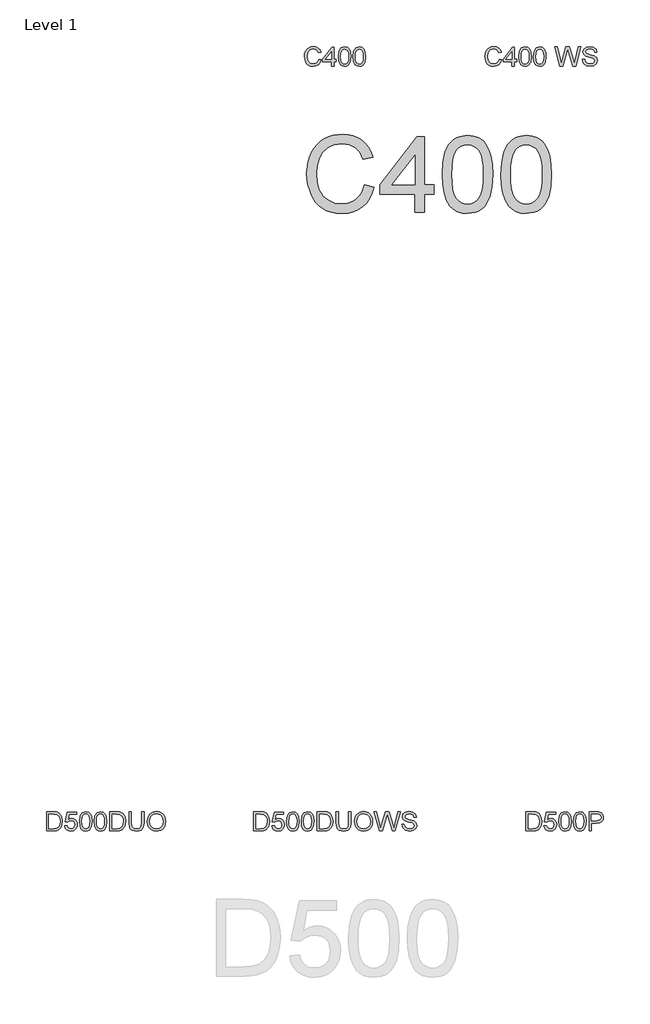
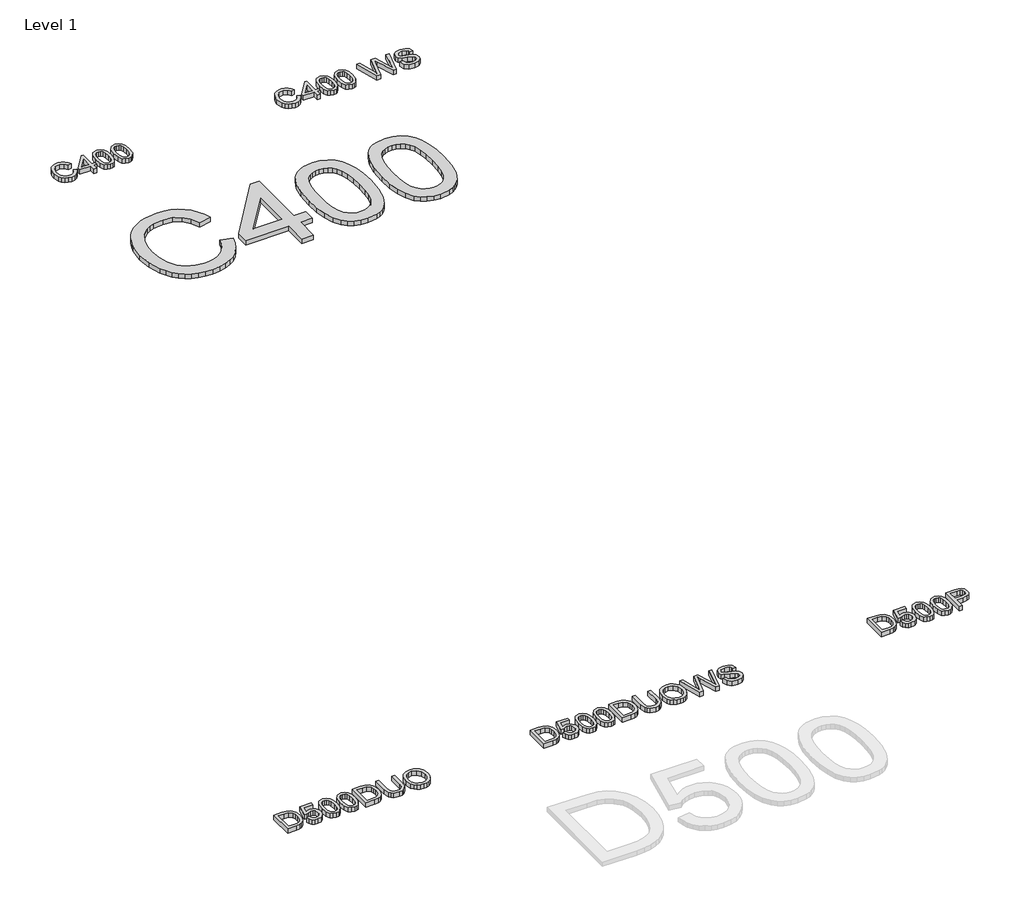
# One storey, part 2 of 5: 6 proxies.
"""IFC4 building model written with IfcOpenShell, lengths in millimetres."""

from ifc_helpers import new_model, si_unit, origin, origin_with_axes, place, context, project, spatial, polyline, outline, extrude, element, save

model = new_model("IFC4")

# Units and contexts
model_context = context("Model", 3, world=origin())
ifc_project = project(units=[si_unit("LENGTHUNIT", "METRE", prefix="MILLI")], contexts=[model_context])

# Site, building, storey
site = spatial("IfcSite", under=ifc_project)
building = spatial("IfcBuilding", under=site)
storey = spatial("IfcBuildingStorey", under=building, Name="Level 1", Elevation=0.0)

# Proxies
placement = place(None, origin())
element("IfcBuildingElementProxy", 1, Name="100mm Arial", ObjectType="100mm Arial", at=placement, inside=storey, context=model_context, shape_type="SweptSolid", body=[
    extrude(outline(polyline([(-4393.4570296, -3882.5422782), (-4380.8999909, -3885.7796398), (-4386.6941323, -3900.4121461), (-4395.7869489, -3911.1021838), (-4407.730851, -3917.6412862), (-4422.0782489, -3919.820987), (-4436.6433102, -3918.1716494), (-4448.2101332, -3913.2236366), (-4457.0760893, -3905.1486268), (-4463.5385497, -3894.1182983), (-4468.7992622, -3867.2629127), (-4467.3124058, -3852.6150779), (-4462.8518367, -3839.9660686), (-4455.6505466, -3829.7174894), (-4445.9415276, -3822.2709446), (-4434.4268212, -3817.7367991), (-4421.8084687, -3816.2254172), (-4408.0404851, -3818.1813231), (-4396.657603, -3824.049041), (-4388.0154418, -3833.46682), (-4382.4696207, -3846.0729097), (-4395.0266595, -3849.0650166), (-4405.3273553, -3833.6262356), (-4422.2989781, -3828.782456), (-4441.9438766, -3834.1535331), (-4453.0416501, -3848.5745073), (-4456.2422235, -3867.2383872), (-4452.4530389, -3888.8698485), (-4440.6562896, -3902.6899488), (-4423.3290476, -3907.2639483), (-4412.8474765, -3905.7065812), (-4404.1133448, -3901.0344798), (-4397.51906, -3893.2966952), (-4393.4570296, -3882.5422782)])), origin_with_axes(), (0.0, 0.0, 1.0), 20.0),
    extrude(outline(polyline([(-4327.5325761, -3918.2513572), (-4327.5325761, -3894.7069095), (-4373.0518416, -3894.7069095), (-4373.0518416, -3882.1498707), (-4324.3933164, -3819.3646769), (-4314.9755373, -3819.3646769), (-4314.9755373, -3882.1498707), (-4302.4184986, -3882.1498707), (-4302.4184986, -3894.7069095), (-4314.9755373, -3894.7069095), (-4314.9755373, -3918.2513572), (-4327.5325761, -3918.2513572)]), holes=[polyline([(-4327.5325761, -3882.1498707), (-4327.5325761, -3843.350583), (-4357.6007978, -3882.1498707), (-4327.5325761, -3882.1498707)])]), origin_with_axes(), (0.0, 0.0, 1.0), 20.0),
    extrude(outline(polyline([(-4291.4310896, -3868.8325425), (-4287.740007, -3839.9292804), (-4276.7771235, -3823.264226), (-4258.4688629, -3817.795047), (-4243.802634, -3821.0324086), (-4233.6736164, -3830.3643485), (-4227.7875045, -3845.2267811), (-4225.5066361, -3868.8325425), (-4229.1609306, -3897.6131773), (-4240.0870258, -3914.3150198), (-4248.3183855, -3918.4444952), (-4258.4688629, -3919.820987), (-4271.516411, -3917.4297541), (-4281.4246994, -3910.2560552), (-4288.9294921, -3893.2660384), (-4291.4310896, -3868.8325425)]), holes=[polyline([(-4278.8740509, -3868.808017), (-4277.4025229, -3888.5602145), (-4272.9879389, -3899.9921475), (-4266.415114, -3905.4459981), (-4258.4688629, -3907.2639483), (-4250.5226118, -3905.4398667), (-4243.9497868, -3899.967622), (-4239.5352029, -3888.5295577), (-4238.0636749, -3868.808017), (-4239.4861519, -3849.5003437), (-4243.7535831, -3837.9795058), (-4250.3141453, -3832.2589408), (-4258.6160157, -3830.3520858), (-4266.4764276, -3832.0320803), (-4272.7917352, -3837.0720636), (-4277.353472, -3849.3102713), (-4278.8740509, -3868.808017)])]), origin_with_axes(), (0.0, 0.0, 1.0), 20.0),
    extrude(outline(polyline([(-4214.5192272, -3868.8325425), (-4210.8281445, -3839.9292804), (-4199.865261, -3823.264226), (-4181.5570004, -3817.795047), (-4166.8907715, -3821.0324086), (-4156.7617539, -3830.3643485), (-4150.875642, -3845.2267811), (-4148.5947736, -3868.8325425), (-4152.2490681, -3897.6131773), (-4163.1751634, -3914.3150198), (-4171.406523, -3918.4444952), (-4181.5570004, -3919.820987), (-4194.6045485, -3917.4297541), (-4204.5128369, -3910.2560552), (-4212.0176296, -3893.2660384), (-4214.5192272, -3868.8325425)]), holes=[polyline([(-4201.9621884, -3868.808017), (-4200.4906604, -3888.5602145), (-4196.0760765, -3899.9921475), (-4189.5032515, -3905.4459981), (-4181.5570004, -3907.2639483), (-4173.6107493, -3905.4398667), (-4167.0379243, -3899.967622), (-4162.6233404, -3888.5295577), (-4161.1518124, -3868.808017), (-4162.5742895, -3849.5003437), (-4166.8417206, -3837.9795058), (-4173.4022829, -3832.2589408), (-4181.7041532, -3830.3520858), (-4189.5645652, -3832.0320803), (-4195.8798728, -3837.0720636), (-4200.4416095, -3849.3102713), (-4201.9621884, -3868.808017)])]), origin_with_axes(), (0.0, 0.0, 1.0), 20.0),
])
element("IfcBuildingElementProxy", 2, Name="100mm Arial", ObjectType="100mm Arial", at=placement, inside=storey, context=model_context, shape_type="SweptSolid", body=[
    extrude(outline(polyline([(-4734.8515212, -7918.2513572), (-4734.8515212, -7817.795047), (-4700.1970372, -7817.795047), (-4682.2689213, -7819.2420496), (-4667.5045906, -7826.4280112), (-4655.6097394, -7843.5958376), (-4651.6611393, -7867.4836419), (-4654.3344151, -7887.7539398), (-4661.2015457, -7902.3833805), (-4670.3740701, -7911.4945912), (-4682.3792859, -7916.5345745), (-4698.5293055, -7918.2513572), (-4734.8515212, -7918.2513572)]), holes=[polyline([(-4722.2944824, -7905.6943184), (-4700.0744099, -7905.6943184), (-4683.9121276, -7903.8794339), (-4674.5924503, -7898.7536114), (-4666.9527676, -7886.2824118), (-4664.2181781, -7867.2874381), (-4665.5578817, -7853.6022279), (-4669.5769925, -7843.4977358), (-4682.6122778, -7832.3631741), (-4700.4177664, -7830.3520858), (-4722.2944824, -7830.3520858), (-4722.2944824, -7905.6943184)])]), origin_with_axes(), (0.0, 0.0, 1.0), 20.0),
    extrude(outline(polyline([(-4639.1041005, -7891.5676498), (-4626.5470618, -7889.99802), (-4620.2194915, -7902.9352035), (-4607.098367, -7907.2639483), (-4598.0975208, -7905.7586978), (-4591.3530176, -7901.2429463), (-4587.1407687, -7894.23786), (-4585.7366858, -7885.264605), (-4590.9973983, -7870.3531214), (-4597.6039458, -7866.2512372), (-4606.9021632, -7864.8839424), (-4617.9263604, -7867.0667089), (-4624.9774319, -7872.7320917), (-4637.5344707, -7871.1624618), (-4626.5470618, -7819.3646769), (-4577.8885365, -7819.3646769), (-4577.8885365, -7831.9217157), (-4616.3935187, -7831.9217157), (-4621.7645958, -7859.5864417), (-4612.7944065, -7854.1417882), (-4603.3950215, -7852.3269037), (-4591.6626516, -7854.5771152), (-4581.9229758, -7861.3277498), (-4575.3654792, -7871.6161829), (-4573.179647, -7884.47979), (-4575.1478157, -7897.0368288), (-4581.0523217, -7907.7789831), (-4592.3585617, -7916.810486), (-4607.1474179, -7919.820987), (-4619.4806618, -7917.8865409), (-4629.3061767, -7912.0832024), (-4636.0414829, -7903.0854219), (-4639.1041005, -7891.5676498)])), origin_with_axes(), (0.0, 0.0, 1.0), 20.0),
    extrude(outline(polyline([(-4562.1922381, -7868.8325425), (-4558.5011554, -7839.9292804), (-4547.5382719, -7823.264226), (-4529.2300113, -7817.795047), (-4514.5637824, -7821.0324086), (-4504.4347648, -7830.3643485), (-4498.5486529, -7845.2267811), (-4496.2677846, -7868.8325425), (-4499.922079, -7897.6131773), (-4510.8481743, -7914.3150198), (-4519.0795339, -7918.4444952), (-4529.2300113, -7919.820987), (-4542.2775594, -7917.4297541), (-4552.1858478, -7910.2560552), (-4559.6906405, -7893.2660384), (-4562.1922381, -7868.8325425)]), holes=[polyline([(-4549.6351993, -7868.808017), (-4548.1636713, -7888.5602145), (-4543.7490874, -7899.9921475), (-4537.1762624, -7905.4459981), (-4529.2300113, -7907.2639483), (-4521.2837602, -7905.4398667), (-4514.7109352, -7899.967622), (-4510.2963513, -7888.5295577), (-4508.8248233, -7868.808017), (-4510.2473004, -7849.5003437), (-4514.5147315, -7837.9795058), (-4521.0752938, -7832.2589408), (-4529.3771641, -7830.3520858), (-4537.2375761, -7832.0320803), (-4543.5528837, -7837.0720636), (-4548.1146204, -7849.3102713), (-4549.6351993, -7868.808017)])]), origin_with_axes(), (0.0, 0.0, 1.0), 20.0),
    extrude(outline(polyline([(-4485.2803756, -7868.8325425), (-4481.5892929, -7839.9292804), (-4470.6264095, -7823.264226), (-4452.3181489, -7817.795047), (-4437.65192, -7821.0324086), (-4427.5229024, -7830.3643485), (-4421.6367905, -7845.2267811), (-4419.3559221, -7868.8325425), (-4423.0102166, -7897.6131773), (-4433.9363118, -7914.3150198), (-4442.1676715, -7918.4444952), (-4452.3181489, -7919.820987), (-4465.365697, -7917.4297541), (-4475.2739854, -7910.2560552), (-4482.7787781, -7893.2660384), (-4485.2803756, -7868.8325425)]), holes=[polyline([(-4472.7233369, -7868.808017), (-4471.2518089, -7888.5602145), (-4466.8372249, -7899.9921475), (-4460.2644, -7905.4459981), (-4452.3181489, -7907.2639483), (-4444.3718978, -7905.4398667), (-4437.7990728, -7899.967622), (-4433.3844888, -7888.5295577), (-4431.9129609, -7868.808017), (-4433.3354379, -7849.5003437), (-4437.6028691, -7837.9795058), (-4444.1634313, -7832.2589408), (-4452.4653017, -7830.3520858), (-4460.3257136, -7832.0320803), (-4466.6410212, -7837.0720636), (-4471.2027579, -7849.3102713), (-4472.7233369, -7868.808017)])]), origin_with_axes(), (0.0, 0.0, 1.0), 20.0),
    extrude(outline(polyline([(-4403.6596236, -7918.2513572), (-4403.6596236, -7817.795047), (-4369.0051397, -7817.795047), (-4351.0770238, -7819.2420496), (-4336.312693, -7826.4280112), (-4324.4178419, -7843.5958376), (-4320.4692418, -7867.4836419), (-4323.1425176, -7887.7539398), (-4330.0096482, -7902.3833805), (-4339.1821726, -7911.4945912), (-4351.1873884, -7916.5345745), (-4367.337408, -7918.2513572), (-4403.6596236, -7918.2513572)]), holes=[polyline([(-4391.1025849, -7905.6943184), (-4368.8825124, -7905.6943184), (-4352.72023, -7903.8794339), (-4343.4005528, -7898.7536114), (-4335.7608701, -7886.2824118), (-4333.0262806, -7867.2874381), (-4334.3659842, -7853.6022279), (-4338.385095, -7843.4977358), (-4351.4203803, -7832.3631741), (-4369.2258689, -7830.3520858), (-4391.1025849, -7830.3520858), (-4391.1025849, -7905.6943184)])]), origin_with_axes(), (0.0, 0.0, 1.0), 20.0),
    extrude(outline(polyline([(-4237.2788599, -7817.795047), (-4224.7218212, -7817.795047), (-4224.7218212, -7875.748724), (-4228.130861, -7899.7714183), (-4240.4181196, -7914.2414434), (-4250.6820273, -7918.4261011), (-4263.7173127, -7919.820987), (-4286.6608864, -7914.9649447), (-4294.3005692, -7909.0205848), (-4299.3896035, -7900.8995898), (-4303.2033135, -7875.748724), (-4303.2033135, -7817.795047), (-4290.6462747, -7817.795047), (-4290.6462747, -7875.3072656), (-4288.1692026, -7894.4493921), (-4279.6588658, -7903.9284848), (-4264.8945351, -7907.2639483), (-4252.1228985, -7905.6146107), (-4243.6309557, -7900.6665978), (-4238.8668839, -7891.0280895), (-4237.2788599, -7875.3072656), (-4237.2788599, -7817.795047)])), origin_with_axes(), (0.0, 0.0, 1.0), 20.0),
    extrude(outline(polyline([(-4207.4558929, -7869.3475773), (-4204.1081667, -7847.1336362), (-4194.0649882, -7830.3275603), (-4178.7304404, -7819.750953), (-4159.5086062, -7816.2254172), (-4146.3322994, -7817.8808862), (-4134.517156, -7822.8472931), (-4124.7069694, -7830.7751501), (-4117.5455333, -7841.3149693), (-4113.1677375, -7853.9578472), (-4111.7084723, -7868.1948804), (-4113.2443796, -7882.621986), (-4117.8521016, -7895.4426735), (-4125.2771865, -7906.0008868), (-4135.2651827, -7913.6405695), (-4146.9791585, -7918.2758827), (-4159.5821826, -7919.820987), (-4172.9608245, -7918.1134014), (-4184.8434129, -7912.9906447), (-4194.629074, -7904.9156349), (-4201.7169337, -7894.3512902), (-4207.4558929, -7869.3475773)]), holes=[polyline([(-4194.8988541, -7869.4702046), (-4192.3880595, -7885.1848972), (-4184.8556756, -7897.1594561), (-4173.5341072, -7904.7378252), (-4159.655759, -7907.2639483), (-4145.5750756, -7904.7132998), (-4134.2351131, -7897.0613543), (-4126.7579115, -7884.7189133), (-4124.265511, -7868.0967785), (-4128.5329422, -7847.3727595), (-4141.0041418, -7833.650761), (-4159.4350298, -7828.782456), (-4172.9424304, -7831.1277037), (-4184.42648, -7838.1634468), (-4192.2807606, -7850.6806317), (-4194.8988541, -7869.4702046)])]), origin_with_axes(), (0.0, 0.0, 1.0), 20.0),
    extrude(outline(polyline([(-4076.4653771, -7918.2513572), (-4103.860323, -7817.795047), (-4090.9108768, -7817.795047), (-4075.0183746, -7883.8176024), (-4070.1132813, -7904.198265), (-4064.8648315, -7886.1720472), (-4044.9501529, -7817.795047), (-4026.286273, -7817.795047), (-4011.8162478, -7867.3610145), (-4001.0495681, -7904.198265), (-3996.2916276, -7884.4062136), (-3980.2519727, -7817.795047), (-3967.3025264, -7817.795047), (-3994.7219978, -7918.2513572), (-4008.1374279, -7918.2513572), (-4032.2214358, -7840.7508835), (-4035.5814247, -7829.9351529), (-4039.3583465, -7842.9581755), (-4061.3086389, -7918.2513572), (-4076.4653771, -7918.2513572)])), origin_with_axes(), (0.0, 0.0, 1.0), 20.0),
    extrude(outline(polyline([(-3959.4543772, -7883.7195006), (-3946.8973384, -7883.7195006), (-3942.8506365, -7896.2888021), (-3932.9668735, -7904.2350532), (-3917.9082372, -7907.2639483), (-3904.7871127, -7904.9708172), (-3896.3135641, -7898.6677723), (-3893.5299237, -7890.2432746), (-3895.6145883, -7882.4073881), (-3904.1494506, -7876.7052172), (-3922.4331857, -7871.9104885), (-3942.1148725, -7865.7178083), (-3952.7957131, -7856.3736056), (-3956.3151175, -7843.8901432), (-3951.9618472, -7829.6776355), (-3939.2453929, -7819.6467198), (-3920.630564, -7816.2254172), (-3900.7649362, -7819.8061353), (-3887.5211844, -7830.3275603), (-3882.5425147, -7846.0483843), (-3895.0995535, -7846.0483843), (-3897.4049473, -7838.5558543), (-3902.2119387, -7833.147989), (-3920.1400546, -7828.782456), (-3938.1172215, -7833.098938), (-3943.7580787, -7843.5222612), (-3939.7604277, -7852.2288018), (-3919.2571379, -7859.2430852), (-3897.0370653, -7865.54613), (-3884.8846968, -7875.7241985), (-3880.9728849, -7889.9244436), (-3885.473308, -7904.9462917), (-3898.4227542, -7915.9091752), (-3917.4177279, -7919.820987), (-3939.8462668, -7915.6026068), (-3954.0342491, -7902.8984153), (-3959.4543772, -7883.7195006)])), origin_with_axes(), (0.0, 0.0, 1.0), 20.0),
])
element("IfcBuildingElementProxy", 3, Name="100mm Arial", ObjectType="100mm Arial", at=placement, inside=storey, context=model_context, shape_type="SweptSolid", body=[
    extrude(outline(polyline([(-5818.6989125, -7918.2513572), (-5818.6989125, -7817.795047), (-5784.0444286, -7817.795047), (-5766.1163127, -7819.2420496), (-5751.351982, -7826.4280112), (-5739.4571308, -7843.5958376), (-5735.5085307, -7867.4836419), (-5738.1818065, -7887.7539398), (-5745.0489371, -7902.3833805), (-5754.2214615, -7911.4945912), (-5766.2266773, -7916.5345745), (-5782.3766969, -7918.2513572), (-5818.6989125, -7918.2513572)]), holes=[polyline([(-5806.1418738, -7905.6943184), (-5783.9218013, -7905.6943184), (-5767.7595189, -7903.8794339), (-5758.4398417, -7898.7536114), (-5750.800159, -7886.2824118), (-5748.0655695, -7867.2874381), (-5749.4052731, -7853.6022279), (-5753.4243839, -7843.4977358), (-5766.4596692, -7832.3631741), (-5784.2651578, -7830.3520858), (-5806.1418738, -7830.3520858), (-5806.1418738, -7905.6943184)])]), origin_with_axes(), (0.0, 0.0, 1.0), 20.0),
    extrude(outline(polyline([(-5722.9514919, -7891.5676498), (-5710.3944532, -7889.99802), (-5704.0668829, -7902.9352035), (-5690.9457584, -7907.2639483), (-5681.9449122, -7905.7586978), (-5675.200409, -7901.2429463), (-5670.9881601, -7894.23786), (-5669.5840772, -7885.264605), (-5674.8447897, -7870.3531214), (-5681.4513372, -7866.2512372), (-5690.7495546, -7864.8839424), (-5701.7737517, -7867.0667089), (-5708.8248233, -7872.7320917), (-5721.3818621, -7871.1624618), (-5710.3944532, -7819.3646769), (-5661.7359279, -7819.3646769), (-5661.7359279, -7831.9217157), (-5700.2409101, -7831.9217157), (-5705.6119872, -7859.5864417), (-5696.6417979, -7854.1417882), (-5687.2424129, -7852.3269037), (-5675.510043, -7854.5771152), (-5665.7703672, -7861.3277498), (-5659.2128706, -7871.6161829), (-5657.0270384, -7884.47979), (-5658.9952071, -7897.0368288), (-5664.8997131, -7907.7789831), (-5676.2059531, -7916.810486), (-5690.9948093, -7919.820987), (-5703.3280532, -7917.8865409), (-5713.1535681, -7912.0832024), (-5719.8888743, -7903.0854219), (-5722.9514919, -7891.5676498)])), origin_with_axes(), (0.0, 0.0, 1.0), 20.0),
    extrude(outline(polyline([(-5646.0396295, -7868.8325425), (-5642.3485468, -7839.9292804), (-5631.3856633, -7823.264226), (-5613.0774027, -7817.795047), (-5598.4111738, -7821.0324086), (-5588.2821562, -7830.3643485), (-5582.3960443, -7845.2267811), (-5580.1151759, -7868.8325425), (-5583.7694704, -7897.6131773), (-5594.6955657, -7914.3150198), (-5602.9269253, -7918.4444952), (-5613.0774027, -7919.820987), (-5626.1249508, -7917.4297541), (-5636.0332392, -7910.2560552), (-5643.5380319, -7893.2660384), (-5646.0396295, -7868.8325425)]), holes=[polyline([(-5633.4825907, -7868.808017), (-5632.0110627, -7888.5602145), (-5627.5964788, -7899.9921475), (-5621.0236538, -7905.4459981), (-5613.0774027, -7907.2639483), (-5605.1311516, -7905.4398667), (-5598.5583266, -7899.967622), (-5594.1437427, -7888.5295577), (-5592.6722147, -7868.808017), (-5594.0946918, -7849.5003437), (-5598.3621229, -7837.9795058), (-5604.9226851, -7832.2589408), (-5613.2245555, -7830.3520858), (-5621.0849675, -7832.0320803), (-5627.4002751, -7837.0720636), (-5631.9620118, -7849.3102713), (-5633.4825907, -7868.808017)])]), origin_with_axes(), (0.0, 0.0, 1.0), 20.0),
    extrude(outline(polyline([(-5569.127767, -7868.8325425), (-5565.4366843, -7839.9292804), (-5554.4738009, -7823.264226), (-5536.1655403, -7817.795047), (-5521.4993114, -7821.0324086), (-5511.3702938, -7830.3643485), (-5505.4841819, -7845.2267811), (-5503.2033135, -7868.8325425), (-5506.857608, -7897.6131773), (-5517.7837032, -7914.3150198), (-5526.0150629, -7918.4444952), (-5536.1655403, -7919.820987), (-5549.2130883, -7917.4297541), (-5559.1213768, -7910.2560552), (-5566.6261695, -7893.2660384), (-5569.127767, -7868.8325425)]), holes=[polyline([(-5556.5707283, -7868.808017), (-5555.0992003, -7888.5602145), (-5550.6846163, -7899.9921475), (-5544.1117913, -7905.4459981), (-5536.1655403, -7907.2639483), (-5528.2192892, -7905.4398667), (-5521.6464642, -7899.967622), (-5517.2318802, -7888.5295577), (-5515.7603523, -7868.808017), (-5517.1828293, -7849.5003437), (-5521.4502604, -7837.9795058), (-5528.0108227, -7832.2589408), (-5536.312693, -7830.3520858), (-5544.173105, -7832.0320803), (-5550.4884126, -7837.0720636), (-5555.0501493, -7849.3102713), (-5556.5707283, -7868.808017)])]), origin_with_axes(), (0.0, 0.0, 1.0), 20.0),
    extrude(outline(polyline([(-5487.507015, -7918.2513572), (-5487.507015, -7817.795047), (-5452.8525311, -7817.795047), (-5434.9244152, -7819.2420496), (-5420.1600844, -7826.4280112), (-5408.2652333, -7843.5958376), (-5404.3166332, -7867.4836419), (-5406.989909, -7887.7539398), (-5413.8570396, -7902.3833805), (-5423.029564, -7911.4945912), (-5435.0347798, -7916.5345745), (-5451.1847994, -7918.2513572), (-5487.507015, -7918.2513572)]), holes=[polyline([(-5474.9499763, -7905.6943184), (-5452.7299037, -7905.6943184), (-5436.5676214, -7903.8794339), (-5427.2479442, -7898.7536114), (-5419.6082614, -7886.2824118), (-5416.8736719, -7867.2874381), (-5418.2133755, -7853.6022279), (-5422.2324863, -7843.4977358), (-5435.2677717, -7832.3631741), (-5453.0732603, -7830.3520858), (-5474.9499763, -7830.3520858), (-5474.9499763, -7905.6943184)])]), origin_with_axes(), (0.0, 0.0, 1.0), 20.0),
    extrude(outline(polyline([(-5321.1262513, -7817.795047), (-5308.5692126, -7817.795047), (-5308.5692126, -7875.748724), (-5311.9782524, -7899.7714183), (-5324.265511, -7914.2414434), (-5334.5294187, -7918.4261011), (-5347.5647041, -7919.820987), (-5370.5082778, -7914.9649447), (-5378.1479606, -7909.0205848), (-5383.2369949, -7900.8995898), (-5387.0507049, -7875.748724), (-5387.0507049, -7817.795047), (-5374.4936661, -7817.795047), (-5374.4936661, -7875.3072656), (-5372.016594, -7894.4493921), (-5363.5062572, -7903.9284848), (-5348.7419264, -7907.2639483), (-5335.9702898, -7905.6146107), (-5327.4783471, -7900.6665978), (-5322.7142753, -7891.0280895), (-5321.1262513, -7875.3072656), (-5321.1262513, -7817.795047)])), origin_with_axes(), (0.0, 0.0, 1.0), 20.0),
    extrude(outline(polyline([(-5291.3032843, -7869.3475773), (-5287.9555581, -7847.1336362), (-5277.9123796, -7830.3275603), (-5262.5778318, -7819.750953), (-5243.3559976, -7816.2254172), (-5230.1796908, -7817.8808862), (-5218.3645474, -7822.8472931), (-5208.5543608, -7830.7751501), (-5201.3929246, -7841.3149693), (-5197.0151289, -7853.9578472), (-5195.5558637, -7868.1948804), (-5197.091771, -7882.621986), (-5201.699493, -7895.4426735), (-5209.1245779, -7906.0008868), (-5219.1125741, -7913.6405695), (-5230.8265499, -7918.2758827), (-5243.429574, -7919.820987), (-5256.8082158, -7918.1134014), (-5268.6908043, -7912.9906447), (-5278.4764654, -7904.9156349), (-5285.5643251, -7894.3512902), (-5291.3032843, -7869.3475773)]), holes=[polyline([(-5278.7462455, -7869.4702046), (-5276.2354509, -7885.1848972), (-5268.703067, -7897.1594561), (-5257.3814986, -7904.7378252), (-5243.5031504, -7907.2639483), (-5229.422467, -7904.7132998), (-5218.0825045, -7897.0613543), (-5210.6053029, -7884.7189133), (-5208.1129024, -7868.0967785), (-5212.3803336, -7847.3727595), (-5224.8515332, -7833.650761), (-5243.2824212, -7828.782456), (-5256.7898217, -7831.1277037), (-5268.2738714, -7838.1634468), (-5276.128152, -7850.6806317), (-5278.7462455, -7869.4702046)])]), origin_with_axes(), (0.0, 0.0, 1.0), 20.0),
])
element("IfcBuildingElementProxy", 4, Name="100mm Arial", ObjectType="100mm Arial", at=placement, inside=storey, context=model_context, shape_type="SweptSolid", body=[
    extrude(outline(polyline([(-3310.3944532, -7918.2513572), (-3310.3944532, -7817.795047), (-3275.7399692, -7817.795047), (-3257.8118533, -7819.2420496), (-3243.0475226, -7826.4280112), (-3231.1526714, -7843.5958376), (-3227.2040713, -7867.4836419), (-3229.8773472, -7887.7539398), (-3236.7444777, -7902.3833805), (-3245.9170021, -7911.4945912), (-3257.9222179, -7916.5345745), (-3274.0722375, -7918.2513572), (-3310.3944532, -7918.2513572)]), holes=[polyline([(-3297.8374144, -7905.6943184), (-3275.6173419, -7905.6943184), (-3259.4550596, -7903.8794339), (-3250.1353824, -7898.7536114), (-3242.4956996, -7886.2824118), (-3239.7611101, -7867.2874381), (-3241.1008137, -7853.6022279), (-3245.1199245, -7843.4977358), (-3258.1552099, -7832.3631741), (-3275.9606984, -7830.3520858), (-3297.8374144, -7830.3520858), (-3297.8374144, -7905.6943184)])]), origin_with_axes(), (0.0, 0.0, 1.0), 20.0),
    extrude(outline(polyline([(-3214.6470326, -7891.5676498), (-3202.0899938, -7889.99802), (-3195.7624235, -7902.9352035), (-3182.641299, -7907.2639483), (-3173.6404528, -7905.7586978), (-3166.8959496, -7901.2429463), (-3162.6837007, -7894.23786), (-3161.2796178, -7885.264605), (-3166.5403303, -7870.3531214), (-3173.1468778, -7866.2512372), (-3182.4450952, -7864.8839424), (-3193.4692924, -7867.0667089), (-3200.5203639, -7872.7320917), (-3213.0774027, -7871.1624618), (-3202.0899938, -7819.3646769), (-3153.4314686, -7819.3646769), (-3153.4314686, -7831.9217157), (-3191.9364507, -7831.9217157), (-3197.3075278, -7859.5864417), (-3188.3373385, -7854.1417882), (-3178.9379536, -7852.3269037), (-3167.2055836, -7854.5771152), (-3157.4659078, -7861.3277498), (-3150.9084112, -7871.6161829), (-3148.722579, -7884.47979), (-3150.6907477, -7897.0368288), (-3156.5952537, -7907.7789831), (-3167.9014937, -7916.810486), (-3182.6903499, -7919.820987), (-3195.0235938, -7917.8865409), (-3204.8491088, -7912.0832024), (-3211.5844149, -7903.0854219), (-3214.6470326, -7891.5676498)])), origin_with_axes(), (0.0, 0.0, 1.0), 20.0),
    extrude(outline(polyline([(-3137.7351701, -7868.8325425), (-3134.0440874, -7839.9292804), (-3123.081204, -7823.264226), (-3104.7729433, -7817.795047), (-3090.1067145, -7821.0324086), (-3079.9776969, -7830.3643485), (-3074.0915849, -7845.2267811), (-3071.8107166, -7868.8325425), (-3075.465011, -7897.6131773), (-3086.3911063, -7914.3150198), (-3094.6224659, -7918.4444952), (-3104.7729433, -7919.820987), (-3117.8204914, -7917.4297541), (-3127.7287798, -7910.2560552), (-3135.2335725, -7893.2660384), (-3137.7351701, -7868.8325425)]), holes=[polyline([(-3125.1781313, -7868.808017), (-3123.7066033, -7888.5602145), (-3119.2920194, -7899.9921475), (-3112.7191944, -7905.4459981), (-3104.7729433, -7907.2639483), (-3096.8266922, -7905.4398667), (-3090.2538673, -7899.967622), (-3085.8392833, -7888.5295577), (-3084.3677553, -7868.808017), (-3085.7902324, -7849.5003437), (-3090.0576635, -7837.9795058), (-3096.6182258, -7832.2589408), (-3104.9200961, -7830.3520858), (-3112.7805081, -7832.0320803), (-3119.0958157, -7837.0720636), (-3123.6575524, -7849.3102713), (-3125.1781313, -7868.808017)])]), origin_with_axes(), (0.0, 0.0, 1.0), 20.0),
    extrude(outline(polyline([(-3060.8233076, -7868.8325425), (-3057.132225, -7839.9292804), (-3046.1693415, -7823.264226), (-3027.8610809, -7817.795047), (-3013.194852, -7821.0324086), (-3003.0658344, -7830.3643485), (-2997.1797225, -7845.2267811), (-2994.8988541, -7868.8325425), (-2998.5531486, -7897.6131773), (-3009.4792438, -7914.3150198), (-3017.7106035, -7918.4444952), (-3027.8610809, -7919.820987), (-3040.908629, -7917.4297541), (-3050.8169174, -7910.2560552), (-3058.3217101, -7893.2660384), (-3060.8233076, -7868.8325425)]), holes=[polyline([(-3048.2662689, -7868.808017), (-3046.7947409, -7888.5602145), (-3042.3801569, -7899.9921475), (-3035.807332, -7905.4459981), (-3027.8610809, -7907.2639483), (-3019.9148298, -7905.4398667), (-3013.3420048, -7899.967622), (-3008.9274209, -7888.5295577), (-3007.4558929, -7868.808017), (-3008.8783699, -7849.5003437), (-3013.1458011, -7837.9795058), (-3019.7063633, -7832.2589408), (-3028.0082337, -7830.3520858), (-3035.8686456, -7832.0320803), (-3042.1839532, -7837.0720636), (-3046.74569, -7849.3102713), (-3048.2662689, -7868.808017)])]), origin_with_axes(), (0.0, 0.0, 1.0), 20.0),
    extrude(outline(polyline([(-2979.2025556, -7918.2513572), (-2979.2025556, -7817.795047), (-2941.9728977, -7817.795047), (-2926.9633123, -7818.7515402), (-2914.7618928, -7823.448167), (-2906.8524299, -7833.1602517), (-2903.860323, -7846.8577247), (-2905.8806083, -7858.6973935), (-2911.9414642, -7868.5627624), (-2923.2752953, -7875.2214265), (-2941.1145064, -7877.4409812), (-2966.6455169, -7877.4409812), (-2966.6455169, -7918.2513572), (-2979.2025556, -7918.2513572)]), holes=[polyline([(-2966.6455169, -7864.8839424), (-2940.3787424, -7864.8839424), (-2921.8865408, -7860.2731548), (-2917.7846565, -7854.724268), (-2916.4173618, -7847.2991831), (-2919.6424606, -7836.9003853), (-2928.1160092, -7831.2104771), (-2940.673048, -7830.3520858), (-2966.6455169, -7830.3520858), (-2966.6455169, -7864.8839424)])]), origin_with_axes(), (0.0, 0.0, 1.0), 20.0),
])
element("IfcBuildingElementProxy", 5, Name="100mm Arial", ObjectType="100mm Arial", at=placement, inside=storey, context=model_context, shape_type="SweptSolid", body=[
    extrude(outline(polyline([(-3449.2300113, -3882.5422782), (-3436.6729726, -3885.7796398), (-3442.467114, -3900.4121461), (-3451.5599306, -3911.1021838), (-3463.5038327, -3917.6412862), (-3477.8512305, -3919.820987), (-3492.4162919, -3918.1716494), (-3503.9831149, -3913.2236366), (-3512.849071, -3905.1486268), (-3519.3115314, -3894.1182983), (-3524.5722439, -3867.2629127), (-3523.0853875, -3852.6150779), (-3518.6248183, -3839.9660686), (-3511.4235283, -3829.7174894), (-3501.7145093, -3822.2709446), (-3490.1998028, -3817.7367991), (-3477.5814504, -3816.2254172), (-3463.8134667, -3818.1813231), (-3452.4305847, -3824.049041), (-3443.7884235, -3833.46682), (-3438.2426024, -3846.0729097), (-3450.7996412, -3849.0650166), (-3461.100337, -3833.6262356), (-3478.0719597, -3828.782456), (-3497.7168583, -3834.1535331), (-3508.8146318, -3848.5745073), (-3512.0152052, -3867.2383872), (-3508.2260206, -3888.8698485), (-3496.4292713, -3902.6899488), (-3479.1020293, -3907.2639483), (-3468.6204581, -3905.7065812), (-3459.8863264, -3901.0344798), (-3453.2920417, -3893.2966952), (-3449.2300113, -3882.5422782)])), origin_with_axes(), (0.0, 0.0, 1.0), 20.0),
    extrude(outline(polyline([(-3383.3055578, -3918.2513572), (-3383.3055578, -3894.7069095), (-3428.8248233, -3894.7069095), (-3428.8248233, -3882.1498707), (-3380.1662981, -3819.3646769), (-3370.748519, -3819.3646769), (-3370.748519, -3882.1498707), (-3358.1914802, -3882.1498707), (-3358.1914802, -3894.7069095), (-3370.748519, -3894.7069095), (-3370.748519, -3918.2513572), (-3383.3055578, -3918.2513572)]), holes=[polyline([(-3383.3055578, -3882.1498707), (-3383.3055578, -3843.350583), (-3413.3737795, -3882.1498707), (-3383.3055578, -3882.1498707)])]), origin_with_axes(), (0.0, 0.0, 1.0), 20.0),
    extrude(outline(polyline([(-3347.2040713, -3868.8325425), (-3343.5129886, -3839.9292804), (-3332.5501052, -3823.264226), (-3314.2418446, -3817.795047), (-3299.5756157, -3821.0324086), (-3289.4465981, -3830.3643485), (-3283.5604862, -3845.2267811), (-3281.2796178, -3868.8325425), (-3284.9339123, -3897.6131773), (-3295.8600075, -3914.3150198), (-3304.0913672, -3918.4444952), (-3314.2418446, -3919.820987), (-3327.2893927, -3917.4297541), (-3337.1976811, -3910.2560552), (-3344.7024738, -3893.2660384), (-3347.2040713, -3868.8325425)]), holes=[polyline([(-3334.6470326, -3868.808017), (-3333.1755046, -3888.5602145), (-3328.7609206, -3899.9921475), (-3322.1880957, -3905.4459981), (-3314.2418446, -3907.2639483), (-3306.2955935, -3905.4398667), (-3299.7227685, -3899.967622), (-3295.3081845, -3888.5295577), (-3293.8366566, -3868.808017), (-3295.2591336, -3849.5003437), (-3299.5265647, -3837.9795058), (-3306.087127, -3832.2589408), (-3314.3889974, -3830.3520858), (-3322.2494093, -3832.0320803), (-3328.5647169, -3837.0720636), (-3333.1264536, -3849.3102713), (-3334.6470326, -3868.808017)])]), origin_with_axes(), (0.0, 0.0, 1.0), 20.0),
    extrude(outline(polyline([(-3270.2922089, -3868.8325425), (-3266.6011262, -3839.9292804), (-3255.6382427, -3823.264226), (-3237.3299821, -3817.795047), (-3222.6637532, -3821.0324086), (-3212.5347356, -3830.3643485), (-3206.6486237, -3845.2267811), (-3204.3677553, -3868.8325425), (-3208.0220498, -3897.6131773), (-3218.9481451, -3914.3150198), (-3227.1795047, -3918.4444952), (-3237.3299821, -3919.820987), (-3250.3775302, -3917.4297541), (-3260.2858186, -3910.2560552), (-3267.7906113, -3893.2660384), (-3270.2922089, -3868.8325425)]), holes=[polyline([(-3257.7351701, -3868.808017), (-3256.2636421, -3888.5602145), (-3251.8490582, -3899.9921475), (-3245.2762332, -3905.4459981), (-3237.3299821, -3907.2639483), (-3229.383731, -3905.4398667), (-3222.810906, -3899.967622), (-3218.3963221, -3888.5295577), (-3216.9247941, -3868.808017), (-3218.3472711, -3849.5003437), (-3222.6147023, -3837.9795058), (-3229.1752645, -3832.2589408), (-3237.4771349, -3830.3520858), (-3245.3375469, -3832.0320803), (-3251.6528544, -3837.0720636), (-3256.2145912, -3849.3102713), (-3257.7351701, -3868.808017)])]), origin_with_axes(), (0.0, 0.0, 1.0), 20.0),
    extrude(outline(polyline([(-3131.4535439, -3918.2513572), (-3158.8484898, -3817.795047), (-3145.8990436, -3817.795047), (-3130.0065414, -3883.8176024), (-3125.1014481, -3904.198265), (-3119.8529983, -3886.1720472), (-3099.9383196, -3817.795047), (-3081.2744397, -3817.795047), (-3066.8044146, -3867.3610145), (-3056.0377349, -3904.198265), (-3051.2797944, -3884.4062136), (-3035.2401394, -3817.795047), (-3022.2906932, -3817.795047), (-3049.7101646, -3918.2513572), (-3063.1255946, -3918.2513572), (-3087.2096026, -3840.7508835), (-3090.5695915, -3829.9351529), (-3094.3465133, -3842.9581755), (-3116.2968057, -3918.2513572), (-3131.4535439, -3918.2513572)])), origin_with_axes(), (0.0, 0.0, 1.0), 20.0),
    extrude(outline(polyline([(-3014.442544, -3883.7195006), (-3001.8855052, -3883.7195006), (-2997.8388032, -3896.2888021), (-2987.9550403, -3904.2350532), (-2972.896404, -3907.2639483), (-2959.7752795, -3904.9708172), (-2951.3017308, -3898.6677723), (-2948.5180904, -3890.2432746), (-2950.6027551, -3882.4073881), (-2959.1376173, -3876.7052172), (-2977.4213525, -3871.9104885), (-2997.1030392, -3865.7178083), (-3007.7838798, -3856.3736056), (-3011.3032843, -3843.8901432), (-3006.950014, -3829.6776355), (-2994.2335597, -3819.6467198), (-2975.6187307, -3816.2254172), (-2955.753103, -3819.8061353), (-2942.5093512, -3830.3275603), (-2937.5306815, -3846.0483843), (-2950.0877203, -3846.0483843), (-2952.3931141, -3838.5558543), (-2957.2001055, -3833.147989), (-2975.1282214, -3828.782456), (-2993.1053882, -3833.098938), (-2998.7462455, -3843.5222612), (-2994.7485945, -3852.2288018), (-2974.2453046, -3859.2430852), (-2952.0252321, -3865.54613), (-2939.8728635, -3875.7241985), (-2935.9610516, -3889.9244436), (-2940.4614747, -3904.9462917), (-2953.410921, -3915.9091752), (-2972.4058946, -3919.820987), (-2994.8344336, -3915.6026068), (-3009.0224159, -3902.8984153), (-3014.442544, -3883.7195006)])), origin_with_axes(), (0.0, 0.0, 1.0), 20.0),
])
element("IfcBuildingElementProxy", 6, Name="400mm Arial", ObjectType="400mm Arial", at=placement, inside=storey, context=model_context, shape_type="SweptSolid", body=[
    extrude(outline(polyline([(-4155.3038586, -4540.2197349), (-4105.0757035, -4553.1691812), (-4115.0146487, -4584.4054282), (-4128.2522692, -4611.6992066), (-4144.7885649, -4635.0505162), (-4164.6235358, -4654.4593572), (-4187.3095922, -4669.7172629), (-4212.3991442, -4680.615767), (-4239.892192, -4687.1548695), (-4269.7887355, -4689.3345703), (-4300.4179773, -4687.6852327), (-4328.0489808, -4682.7372199), (-4352.681746, -4674.4905318), (-4374.316273, -4662.9451685), (-4393.2499331, -4648.2728083), (-4409.7800974, -4630.6451294), (-4423.906766, -4610.0621317), (-4435.6299389, -4586.5238154), (-4451.4120765, -4534.6524541), (-4456.672789, -4479.1022728), (-4450.7253634, -4420.5109337), (-4443.2910815, -4394.2135024), (-4432.8830867, -4369.9148966), (-4419.734371, -4348.0167209), (-4404.0779265, -4328.9205796), (-4385.9137529, -4312.6264729), (-4365.2418505, -4299.1344008), (-4342.7642606, -4288.5547277), (-4319.1830247, -4280.9978184), (-4268.709615, -4274.9522909), (-4239.9810968, -4276.9081969), (-4213.6376803, -4282.7759147), (-4189.6793653, -4292.5554444), (-4168.106152, -4306.246786), (-4149.2736595, -4323.4881888), (-4133.5375072, -4343.9179023), (-4120.897695, -4367.5359264), (-4111.3542229, -4394.3422611), (-4161.582378, -4406.3106887), (-4178.9954591, -4369.6819047), (-4202.7851614, -4344.5555644), (-4233.2457906, -4330.0242256), (-4270.6716523, -4325.180446), (-4313.8119476, -4330.5515232), (-4332.4942216, -4337.2653696), (-4349.2512464, -4346.6647545), (-4376.1434203, -4371.827883), (-4393.6423405, -4404.3486514), (-4403.2440606, -4441.1123254), (-4406.444634, -4479.0041709), (-4402.6554494, -4525.4063533), (-4391.2878958, -4565.5300162), (-4371.9127773, -4597.8423181), (-4344.1008985, -4620.8104173), (-4310.758527, -4634.5324158), (-4274.7919306, -4639.1064152), (-4252.9550685, -4637.5490481), (-4232.8656459, -4632.8769468), (-4214.5236628, -4625.0901112), (-4197.9291191, -4614.1885414), (-4183.4744224, -4600.2212883), (-4171.55198, -4583.2374029), (-4162.1617921, -4563.2368851), (-4155.3038586, -4540.2197349)])), origin_with_axes(), (0.0, 0.0, 1.0), 20.0),
    extrude(outline(polyline([(-3891.6060444, -4683.0560509), (-3891.6060444, -4588.8782602), (-4073.6831066, -4588.8782602), (-4073.6831066, -4538.6501051), (-3879.0490057, -4287.5093297), (-3841.3778894, -4287.5093297), (-3841.3778894, -4538.6501051), (-3791.1497343, -4538.6501051), (-3791.1497343, -4588.8782602), (-3841.3778894, -4588.8782602), (-3841.3778894, -4683.0560509), (-3891.6060444, -4683.0560509)]), holes=[polyline([(-3891.6060444, -4538.6501051), (-3891.6060444, -4383.4529541), (-4011.8789314, -4538.6501051), (-3891.6060444, -4538.6501051)])]), origin_with_axes(), (0.0, 0.0, 1.0), 20.0),
    extrude(outline(polyline([(-3747.2000986, -4485.3807922), (-3743.5090159, -4421.0627567), (-3732.4357679, -4369.7677438), (-3714.090719, -4330.7109387), (-3702.2326561, -4315.4775584), (-3688.584234, -4303.1075263), (-3673.0994677, -4293.5364631), (-3655.7323719, -4286.6999893), (-3615.3511915, -4281.2308103), (-3584.400053, -4284.4681719), (-3556.686276, -4294.1802566), (-3533.5097103, -4309.9869196), (-3516.1702056, -4331.5080163), (-3503.0736066, -4358.5596057), (-3492.6257579, -4390.9577468), (-3485.7831528, -4432.0992166), (-3483.5022845, -4485.3807922), (-3487.1565789, -4549.3309457), (-3498.1194624, -4600.5033312), (-3516.3541466, -4639.5969246), (-3528.1846185, -4654.8762901), (-3541.8238434, -4667.3107015), (-3557.3270038, -4676.9461441), (-3574.749282, -4683.8286031), (-3615.3511915, -4689.3345703), (-3643.0159176, -4686.9433373), (-3667.5413839, -4679.7696384), (-3688.9275906, -4667.8134736), (-3707.1745375, -4651.0748428), (-3724.6857205, -4620.8165487), (-3737.1937083, -4583.1147756), (-3744.698501, -4537.9695234), (-3747.2000986, -4485.3807922)]), holes=[polyline([(-3696.9719435, -4485.2826903), (-3695.5004155, -4528.9472175), (-3691.0858316, -4564.2914802), (-3683.7281917, -4591.3154784), (-3673.4274958, -4610.0192122), (-3660.9685589, -4622.7448635), (-3647.1361959, -4631.8346145), (-3631.9304068, -4637.288465), (-3615.3511915, -4639.1064152), (-3598.7719763, -4637.2823337), (-3583.5661871, -4631.810089), (-3569.7338241, -4622.6896812), (-3557.2748872, -4609.9211103), (-3546.9741914, -4591.1867197), (-3539.6165515, -4564.1688528), (-3535.2019675, -4528.8675097), (-3533.7304395, -4485.2826903), (-3535.1529166, -4442.7739258), (-3539.4203477, -4408.0519968), (-3546.532733, -4381.1169034), (-3556.4900723, -4361.9686455), (-3568.7405427, -4348.6206605), (-3582.7323213, -4339.0863854), (-3598.4654079, -4333.3658204), (-3615.9398027, -4331.4589654), (-3632.4331788, -4333.1389599), (-3647.3814506, -4338.1789432), (-3660.7846179, -4346.5789154), (-3672.6426809, -4358.3388765), (-3683.2867333, -4379.1855229), (-3690.8896279, -4407.2917073), (-3695.4513646, -4442.6574298), (-3696.9719435, -4485.2826903)])]), origin_with_axes(), (0.0, 0.0, 1.0), 20.0),
    extrude(outline(polyline([(-3439.5526488, -4485.3807922), (-3435.8615661, -4421.0627567), (-3424.788318, -4369.7677438), (-3406.4432692, -4330.7109387), (-3394.5852062, -4315.4775584), (-3380.9367842, -4303.1075263), (-3365.4520179, -4293.5364631), (-3348.084922, -4286.6999893), (-3307.7037417, -4281.2308103), (-3276.7526032, -4284.4681719), (-3249.0388262, -4294.1802566), (-3225.8622605, -4309.9869196), (-3208.5227558, -4331.5080163), (-3195.4261568, -4358.5596057), (-3184.9783081, -4390.9577468), (-3178.135703, -4432.0992166), (-3175.8548346, -4485.3807922), (-3179.5091291, -4549.3309457), (-3190.4720126, -4600.5033312), (-3208.7066968, -4639.5969246), (-3220.5371686, -4654.8762901), (-3234.1763936, -4667.3107015), (-3249.679554, -4676.9461441), (-3267.1018322, -4683.8286031), (-3307.7037417, -4689.3345703), (-3335.3684677, -4686.9433373), (-3359.8939341, -4679.7696384), (-3381.2801407, -4667.8134736), (-3399.5270877, -4651.0748428), (-3417.0382707, -4620.8165487), (-3429.5462585, -4583.1147756), (-3437.0510512, -4537.9695234), (-3439.5526488, -4485.3807922)]), holes=[polyline([(-3389.3244937, -4485.2826903), (-3387.8529657, -4528.9472175), (-3383.4383818, -4564.2914802), (-3376.0807419, -4591.3154784), (-3365.780046, -4610.0192122), (-3353.3211091, -4622.7448635), (-3339.4887461, -4631.8346145), (-3324.2829569, -4637.288465), (-3307.7037417, -4639.1064152), (-3291.1245264, -4637.2823337), (-3275.9187373, -4631.810089), (-3262.0863743, -4622.6896812), (-3249.6274374, -4609.9211103), (-3239.3267415, -4591.1867197), (-3231.9691016, -4564.1688528), (-3227.5545177, -4528.8675097), (-3226.0829897, -4485.2826903), (-3227.5054667, -4442.7739258), (-3231.7728979, -4408.0519968), (-3238.8852831, -4381.1169034), (-3248.8426225, -4361.9686455), (-3261.0930929, -4348.6206605), (-3275.0848715, -4339.0863854), (-3290.8179581, -4333.3658204), (-3308.2923529, -4331.4589654), (-3324.785729, -4333.1389599), (-3339.7340007, -4338.1789432), (-3353.1371681, -4346.5789154), (-3364.9952311, -4358.3388765), (-3375.6392835, -4379.1855229), (-3383.242178, -4407.2917073), (-3387.8039148, -4442.6574298), (-3389.3244937, -4485.2826903)])]), origin_with_axes(), (0.0, 0.0, 1.0), 20.0),
])

save(model, "model.ifc")
